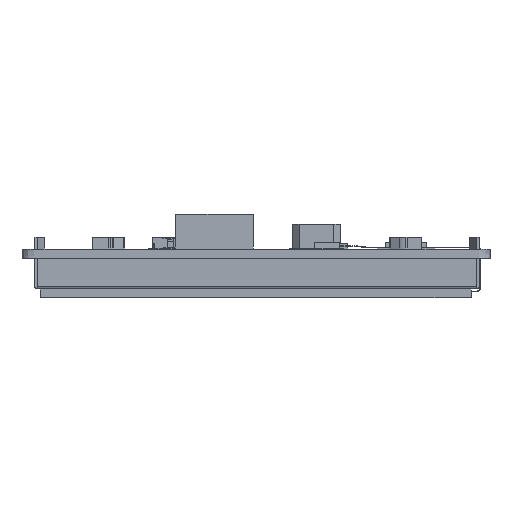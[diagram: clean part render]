
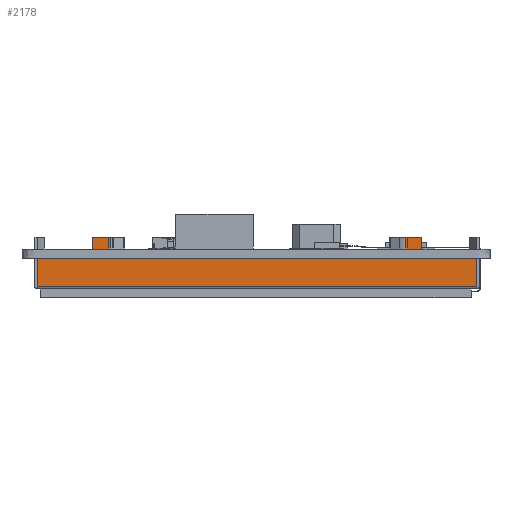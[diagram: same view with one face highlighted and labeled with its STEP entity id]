
A CAD part, left-side view. The second image highlights one B-rep face of the part: STEP entity #2178.
In plain terms, the highlighted planar face has unit normal (-1, 0, 0).
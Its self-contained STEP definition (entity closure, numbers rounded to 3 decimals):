
#2178=ADVANCED_FACE('',(#4332),#3406,.F.);
#3406=PLANE('',#25281);
#4332=FACE_OUTER_BOUND('',#5523,.T.);
#5523=EDGE_LOOP('',(#6940,#6941,#6942,#6943,#6944,#6945,#6946,#6947,#6948,
#6949,#6950,#6951,#6952,#6953,#6954,#6955));
#6940=ORIENTED_EDGE('',*,*,#16118,.F.);
#6941=ORIENTED_EDGE('',*,*,#16119,.T.);
#6942=ORIENTED_EDGE('',*,*,#16120,.T.);
#6943=ORIENTED_EDGE('',*,*,#16115,.T.);
#6944=ORIENTED_EDGE('',*,*,#16121,.T.);
#6945=ORIENTED_EDGE('',*,*,#16122,.F.);
#6946=ORIENTED_EDGE('',*,*,#16123,.T.);
#6947=ORIENTED_EDGE('',*,*,#16124,.F.);
#6948=ORIENTED_EDGE('',*,*,#16125,.F.);
#6949=ORIENTED_EDGE('',*,*,#16111,.T.);
#6950=ORIENTED_EDGE('',*,*,#16126,.T.);
#6951=ORIENTED_EDGE('',*,*,#16127,.T.);
#6952=ORIENTED_EDGE('',*,*,#16128,.F.);
#6953=ORIENTED_EDGE('',*,*,#16129,.F.);
#6954=ORIENTED_EDGE('',*,*,#16130,.F.);
#6955=ORIENTED_EDGE('',*,*,#16109,.T.);
#13817=VERTEX_POINT('',#33716);
#13819=VERTEX_POINT('',#33720);
#13820=VERTEX_POINT('',#33724);
#13822=VERTEX_POINT('',#33727);
#13824=VERTEX_POINT('',#33733);
#13826=VERTEX_POINT('',#33736);
#13828=VERTEX_POINT('',#33742);
#13829=VERTEX_POINT('',#33744);
#13830=VERTEX_POINT('',#33747);
#13831=VERTEX_POINT('',#33749);
#13832=VERTEX_POINT('',#33751);
#13833=VERTEX_POINT('',#33753);
#13834=VERTEX_POINT('',#33756);
#13835=VERTEX_POINT('',#33758);
#13836=VERTEX_POINT('',#33760);
#13837=VERTEX_POINT('',#33762);
#16109=EDGE_CURVE('',#13817,#13819,#19583,.T.);
#16111=EDGE_CURVE('',#13822,#13820,#19585,.T.);
#16115=EDGE_CURVE('',#13826,#13824,#19589,.T.);
#16118=EDGE_CURVE('',#13828,#13819,#19592,.T.);
#16119=EDGE_CURVE('',#13828,#13829,#19593,.T.);
#16120=EDGE_CURVE('',#13829,#13826,#19594,.T.);
#16121=EDGE_CURVE('',#13824,#13830,#19595,.T.);
#16122=EDGE_CURVE('',#13831,#13830,#19596,.T.);
#16123=EDGE_CURVE('',#13831,#13832,#19597,.T.);
#16124=EDGE_CURVE('',#13833,#13832,#19598,.T.);
#16125=EDGE_CURVE('',#13822,#13833,#19599,.T.);
#16126=EDGE_CURVE('',#13820,#13834,#19600,.T.);
#16127=EDGE_CURVE('',#13834,#13835,#19601,.T.);
#16128=EDGE_CURVE('',#13836,#13835,#19602,.T.);
#16129=EDGE_CURVE('',#13837,#13836,#19603,.T.);
#16130=EDGE_CURVE('',#13817,#13837,#19604,.T.);
#19583=LINE('',#33721,#22444);
#19585=LINE('',#33726,#22446);
#19589=LINE('',#33735,#22450);
#19592=LINE('',#33741,#22453);
#19593=LINE('',#33743,#22454);
#19594=LINE('',#33745,#22455);
#19595=LINE('',#33746,#22456);
#19596=LINE('',#33748,#22457);
#19597=LINE('',#33750,#22458);
#19598=LINE('',#33752,#22459);
#19599=LINE('',#33754,#22460);
#19600=LINE('',#33755,#22461);
#19601=LINE('',#33757,#22462);
#19602=LINE('',#33759,#22463);
#19603=LINE('',#33761,#22464);
#19604=LINE('',#33763,#22465);
#22444=VECTOR('',#27178,1.);
#22446=VECTOR('',#27182,1.);
#22450=VECTOR('',#27188,1.);
#22453=VECTOR('',#27193,1.);
#22454=VECTOR('',#27194,1.);
#22455=VECTOR('',#27195,1.);
#22456=VECTOR('',#27196,1.);
#22457=VECTOR('',#27197,1.);
#22458=VECTOR('',#27198,1.);
#22459=VECTOR('',#27199,1.);
#22460=VECTOR('',#27200,1.);
#22461=VECTOR('',#27201,1.);
#22462=VECTOR('',#27202,1.);
#22463=VECTOR('',#27203,1.);
#22464=VECTOR('',#27204,1.);
#22465=VECTOR('',#27205,1.);
#25281=AXIS2_PLACEMENT_3D('',#33764,#27206,#27207);
#27178=DIRECTION('',(0.,1.,0.));
#27182=DIRECTION('',(0.,1.,0.));
#27188=DIRECTION('',(0.,1.,0.));
#27193=DIRECTION('',(0.,0.,1.));
#27194=DIRECTION('',(0.,-1.,0.));
#27195=DIRECTION('',(0.,0.,1.));
#27196=DIRECTION('',(0.,0.,1.));
#27197=DIRECTION('',(0.,-1.,0.));
#27198=DIRECTION('',(0.,0.,-1.));
#27199=DIRECTION('',(0.,-1.,0.));
#27200=DIRECTION('',(0.,0.,1.));
#27201=DIRECTION('',(0.,0.,1.));
#27202=DIRECTION('',(0.,-1.,0.));
#27203=DIRECTION('',(0.,0.,-1.));
#27204=DIRECTION('',(0.,-1.,0.));
#27205=DIRECTION('',(0.,0.,1.));
#27206=DIRECTION('',(1.,0.,0.));
#27207=DIRECTION('',(0.,1.,0.));
#33716=CARTESIAN_POINT('',(59.66,45.295,-1.6));
#33720=CARTESIAN_POINT('',(59.66,54.82,-1.6));
#33721=CARTESIAN_POINT('',(59.66,-21.2,-1.6));
#33724=CARTESIAN_POINT('',(59.66,42.295,-1.6));
#33726=CARTESIAN_POINT('',(59.66,-21.2,-1.6));
#33727=CARTESIAN_POINT('',(59.66,-8.635,-1.6));
#33733=CARTESIAN_POINT('',(59.66,-11.635,-1.6));
#33735=CARTESIAN_POINT('',(59.66,-21.2,-1.6));
#33736=CARTESIAN_POINT('',(59.66,-21.2,-1.6));
#33741=CARTESIAN_POINT('',(59.66,54.82,-6.9));
#33742=CARTESIAN_POINT('',(59.66,54.82,-6.5));
#33743=CARTESIAN_POINT('',(59.66,-21.2,-6.5));
#33744=CARTESIAN_POINT('',(59.66,-21.2,-6.5));
#33745=CARTESIAN_POINT('',(59.66,-21.2,-6.9));
#33746=CARTESIAN_POINT('',(59.66,-11.635,-1.6));
#33747=CARTESIAN_POINT('',(59.66,-11.635,2.));
#33748=CARTESIAN_POINT('',(59.66,-8.924,2.));
#33749=CARTESIAN_POINT('',(59.66,-8.924,2.));
#33750=CARTESIAN_POINT('',(59.66,-8.924,2.));
#33751=CARTESIAN_POINT('',(59.66,-8.924,0.));
#33752=CARTESIAN_POINT('',(59.66,-8.635,0.));
#33753=CARTESIAN_POINT('',(59.66,-8.635,0.));
#33754=CARTESIAN_POINT('',(59.66,-8.635,-1.6));
#33755=CARTESIAN_POINT('',(59.66,42.295,-1.6));
#33756=CARTESIAN_POINT('',(59.66,42.295,0.));
#33757=CARTESIAN_POINT('',(59.66,45.295,0.));
#33758=CARTESIAN_POINT('',(59.66,42.191,0.));
#33759=CARTESIAN_POINT('',(59.66,42.191,2.));
#33760=CARTESIAN_POINT('',(59.66,42.191,2.));
#33761=CARTESIAN_POINT('',(59.66,45.295,2.));
#33762=CARTESIAN_POINT('',(59.66,45.295,2.));
#33763=CARTESIAN_POINT('',(59.66,45.295,-1.6));
#33764=CARTESIAN_POINT('',(59.66,-21.2,-6.9));
